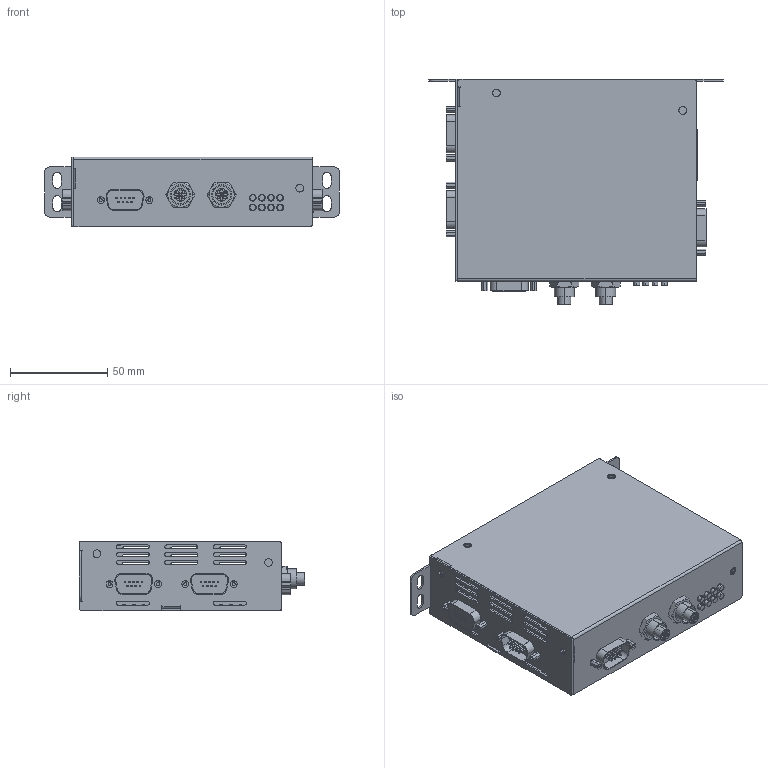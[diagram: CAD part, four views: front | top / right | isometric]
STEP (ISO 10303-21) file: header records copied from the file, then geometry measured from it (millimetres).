
FILE_DESCRIPTION(/* description */ (''),/* implementation_level */ '2;1');
FILE_NAME(/* name */ '有插口',/* time_stamp */ '2025-03-21T15:05:44+08:00',/* author */ (''),/* organization */ (''),/* preprocessor_version */ 'ST-DEVELOPER v19.2',/* originating_system */ 'Rhino 8.1',/* authorisation */ '');
FILE_SCHEMA (('CONFIG_CONTROL_DESIGN'));
Length unit declared in the file: millimetre
Products named in the file (1): Document
Bounding box: 151.99 x 116 x 36 mm (x, y, z)
Volume: 42275.6 mm3; surface area: 117416.1 mm2
Topology: 23 solids, 62 shells, 1095 faces, 2795 edges, 1769 vertices
Faces by surface type: plane 607, cylinder 451, bspline 37
Entity records: 33711 total; most frequent: CARTESIAN_POINT 10458, ORIENTED_EDGE 5466, DIRECTION 2870, EDGE_CURVE 2786, AXIS2_PLACEMENT_3D 1964, VERTEX_POINT 1758, B_SPLINE_CURVE_WITH_KNOTS 1616, EDGE_LOOP 1307
